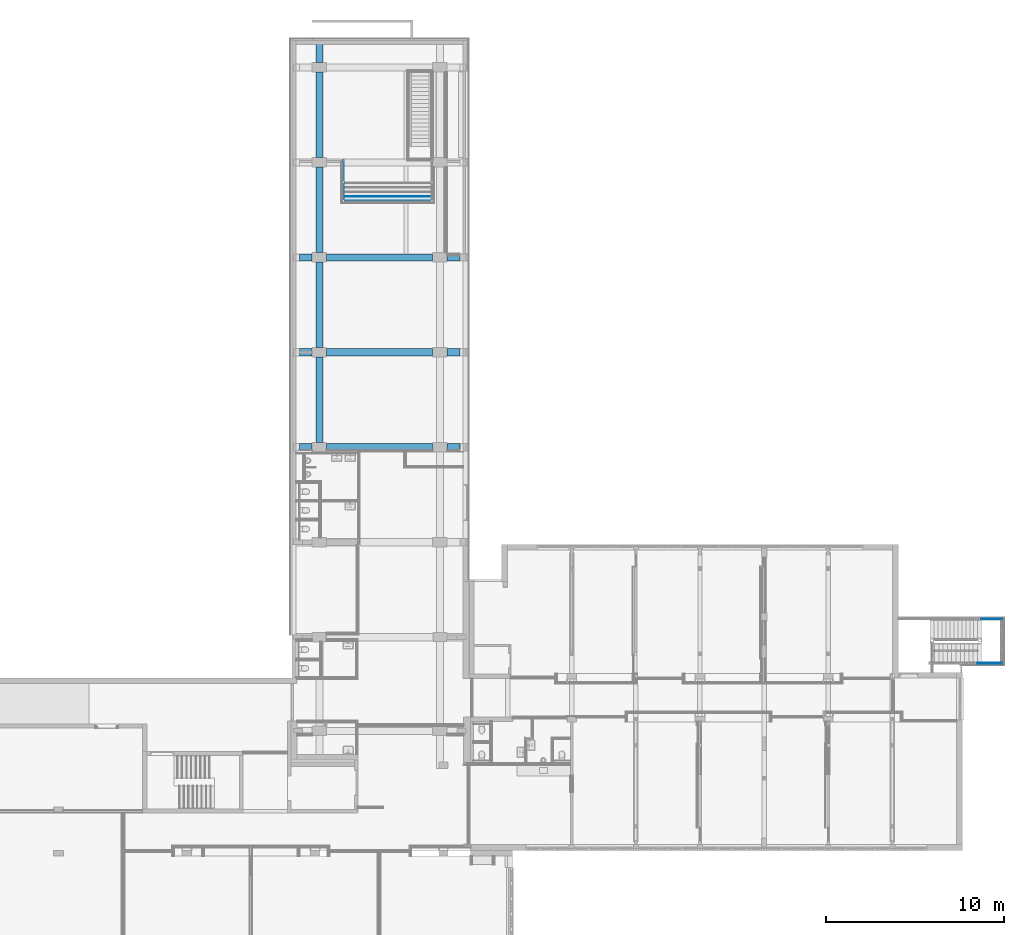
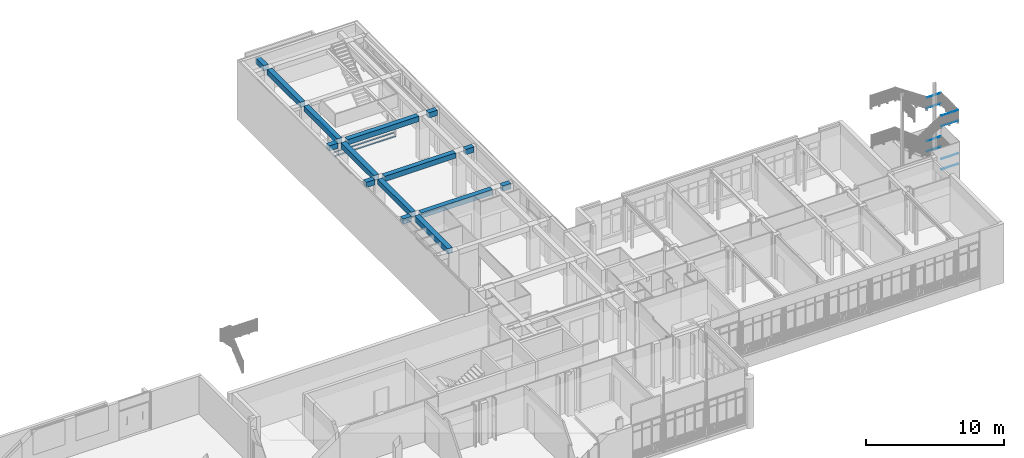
# One storey, part 63 of 135: 12 members, 4 beams, 4 elements without a shape of their own.
"""IFC2X3 building model written with IfcOpenShell, lengths in millimetres."""

from ifc_helpers import new_model, entity, si_unit, converted_unit, derived_unit, money_unit, direction, frame, origin_with_axes, place, context, subcontext, project, spatial, faceted_brep, material, type_object, element, aggregate, save


model = new_model("IFC2X3")

# Units and contexts
model_context = context("Model", 3, precision=0.01, world=origin_with_axes(), true_north=direction((0.0, 1.0)))
body_context = subcontext(model_context, "Body", "Model", "MODEL_VIEW")
ifc_project = project(units=[si_unit("LENGTHUNIT", "METRE", prefix="MILLI"), si_unit("AREAUNIT", "SQUARE_METRE"), si_unit("VOLUMEUNIT", "CUBIC_METRE"), converted_unit("PLANEANGLEUNIT", "DEGREE", entity("IfcPlaneAngleMeasure", 0.0174532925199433), si_unit("PLANEANGLEUNIT", "RADIAN"), dimensions=[0, 0, 0, 0, 0, 0, 0]), money_unit("EUR"), converted_unit("TIMEUNIT", "Year", entity("IfcTimeMeasure", 31557600.0), si_unit("TIMEUNIT", "SECOND"), dimensions=[0, 0, 1, 0, 0, 0, 0]), si_unit("MASSUNIT", "GRAM", prefix="KILO"), si_unit("THERMODYNAMICTEMPERATUREUNIT", "DEGREE_CELSIUS"), si_unit("LUMINOUSINTENSITYUNIT", "LUMEN"), si_unit("ENERGYUNIT", "JOULE", prefix="MEGA"), derived_unit("THERMALCONDUCTANCEUNIT", [(si_unit("POWERUNIT", "WATT"), 1), (si_unit("LENGTHUNIT", "METRE"), -1), (si_unit("THERMODYNAMICTEMPERATUREUNIT", "KELVIN"), -1)]), derived_unit("SPECIFICHEATCAPACITYUNIT", [(si_unit("ENERGYUNIT", "JOULE"), 1), (si_unit("MASSUNIT", "GRAM", prefix="KILO"), -1), (si_unit("THERMODYNAMICTEMPERATUREUNIT", "KELVIN"), -1)]), derived_unit("MASSDENSITYUNIT", [(si_unit("MASSUNIT", "GRAM", prefix="KILO"), 1), (si_unit("VOLUMEUNIT", "CUBIC_METRE"), -1)])], contexts=[model_context])

# Site, building, storey
site_placement = place(None, origin_with_axes())
site = spatial("IfcSite", under=ifc_project, at=site_placement, Name="Site", CompositionType="ELEMENT")
building_placement = place(site_placement, origin_with_axes())
building = spatial("IfcBuilding", under=site, at=building_placement, Name="Naam gebouw", CompositionType="ELEMENT")
storey_placement = place(building_placement, origin_with_axes())
storey = spatial("IfcBuildingStorey", under=building, at=storey_placement, Name="Begane grond N", CompositionType="ELEMENT", Elevation=0.0)

# Railing, members
railing_type = type_object("IfcRailingType", Name="Railing Type", PredefinedType="NOTDEFINED")
railing_1_placement = place(storey_placement, frame((56236.62159597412, 21185.9124251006, 157.4646725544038), z_axis=(0.0, 0.0, 1.0), x_axis=(1.0, 0.0, 0.0)))
railing_1 = element("IfcRailing", 1, at=railing_1_placement, inside=storey, type_object=railing_type, Name="_Reling-x", PredefinedType="NOTDEFINED")
ifc_material_1 = material(Name="Metaal - Staal C")
member_type_1 = type_object("IfcMemberType", Name="IfcMember", PredefinedType="USERDEFINED")
member_1_placement = place(railing_1_placement, frame((3225.226525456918, -24.99999999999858, 2901.924667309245), z_axis=(0.0, 0.0, 1.0), x_axis=(1.0, 0.0, 0.0)))
member_1 = element("IfcMember", 2, at=member_1_placement, type_object=member_type_1, material=ifc_material_1, Name="_Bovenregel-x", context=body_context, shape_type="Brep", body=[
    faceted_brep([(-682.8111368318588, -19.99999999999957, 28.28427124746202), (-676.3566655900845, -19.99999999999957, 8.284271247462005), (702.8111368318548, -19.99999999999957, 8.284271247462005), (702.8111368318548, -19.99999999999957, 28.28427124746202), (-682.8111368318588, 19.99999999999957, 28.28427124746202), (-676.3566655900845, 19.99999999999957, 8.284271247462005), (662.8111368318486, 19.99999999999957, 8.284271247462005), (662.8111368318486, 19.99999999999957, 28.28427124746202)], [[[0, 1, 2, 3]], [[0, 4, 5, 1]], [[1, 5, 6, 2]], [[3, 2, 6, 7]], [[4, 0, 3, 7]], [[5, 4, 7, 6]]]),
])
member_2_placement = place(railing_1_placement, frame((3225.226525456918, -24.99999999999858, 1977.848258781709), z_axis=(0.0, 0.0, 1.0), x_axis=(1.0, 0.0, 0.0)))
member_2 = element("IfcMember", 3, at=member_2_placement, type_object=member_type_1, material=ifc_material_1, Name="_Regel-x", context=body_context, shape_type="Brep", body=[
    faceted_brep([(-686.0383724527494, -19.99999999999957, 32.36067977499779), (-679.5839012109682, -19.99999999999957, 12.36067977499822), (702.8111368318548, -19.99999999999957, 12.36067977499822), (702.8111368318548, -19.99999999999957, 32.36067977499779), (-686.0383724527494, 19.99999999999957, 32.36067977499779), (-679.5839012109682, 19.99999999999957, 12.36067977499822), (662.8111368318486, 19.99999999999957, 12.36067977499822), (662.8111368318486, 19.99999999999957, 32.36067977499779)], [[[0, 1, 2, 3]], [[0, 4, 5, 1]], [[1, 5, 6, 2]], [[3, 2, 6, 7]], [[4, 0, 3, 7]], [[5, 4, 7, 6]]]),
])
member_3_placement = place(railing_1_placement, frame((3328.195691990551, 2465.000000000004, 2901.924667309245), z_axis=(0.0, 0.0, 1.0), x_axis=(1.0, 0.0, 0.0)))
member_3 = element("IfcMember", 4, at=member_3_placement, type_object=member_type_1, material=ifc_material_1, Name="_Bovenregel-x", context=body_context, shape_type="Brep", body=[
    faceted_brep([(599.8419702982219, 19.99999999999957, 28.28427124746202), (599.8419702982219, 19.99999999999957, 8.284271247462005), (-586.7478712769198, 19.99999999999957, 8.284271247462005), (-579.8419702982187, 19.99999999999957, 28.28427124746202), (559.8419702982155, -19.99999999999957, 28.28427124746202), (559.8419702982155, -19.99999999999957, 8.284271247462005), (-586.7478712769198, -19.99999999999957, 8.284271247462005), (-579.8419702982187, -19.99999999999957, 28.28427124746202)], [[[0, 1, 2, 3]], [[0, 4, 5, 1]], [[1, 5, 6, 2]], [[3, 2, 6, 7]], [[4, 0, 3, 7]], [[5, 4, 7, 6]]]),
])
member_4_placement = place(railing_1_placement, frame((3328.195691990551, 2465.000000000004, 1977.848258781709), z_axis=(0.0, 0.0, 1.0), x_axis=(1.0, 0.0, 0.0)))
member_4 = element("IfcMember", 5, at=member_4_placement, type_object=member_type_1, material=ifc_material_1, Name="_Regel-x", context=body_context, shape_type="Brep", body=[
    faceted_brep([(599.8419702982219, 19.99999999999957, 32.36067977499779), (599.8419702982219, 19.99999999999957, 12.36067977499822), (-583.2949207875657, 19.99999999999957, 12.36067977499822), (-576.3890198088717, 19.99999999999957, 32.36067977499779), (559.8419702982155, -19.99999999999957, 32.36067977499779), (559.8419702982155, -19.99999999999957, 12.36067977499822), (-583.2949207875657, -19.99999999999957, 12.36067977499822), (-576.3890198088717, -19.99999999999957, 32.36067977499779)], [[[0, 1, 2, 3]], [[0, 4, 5, 1]], [[1, 5, 6, 2]], [[3, 2, 6, 7]], [[4, 0, 3, 7]], [[5, 4, 7, 6]]]),
])
aggregate(railing_1, [member_1, member_2, member_3, member_4])

railing_2_placement = place(storey_placement, frame((56236.62159597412, 21185.9124251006, 4176.0), z_axis=(0.0, 0.0, 1.0), x_axis=(1.0, 0.0, 0.0)))
railing_2 = element("IfcRailing", 6, at=railing_2_placement, inside=storey, type_object=railing_type, Name="_Reling-x", PredefinedType="NOTDEFINED")
member_5_placement = place(railing_2_placement, frame((3214.935431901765, -24.99999999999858, 2708.38933986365), z_axis=(0.0, 0.0, 1.0), x_axis=(1.0, 0.0, 0.0)))
member_5 = element("IfcMember", 7, at=member_5_placement, type_object=member_type_1, material=ifc_material_1, Name="_Bovenregel-x", context=body_context, shape_type="Brep", body=[
    faceted_brep([(-693.4429721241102, -19.99999999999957, 28.28427124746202), (-687.3769018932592, -19.99999999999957, 8.28427124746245), (713.4429721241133, -19.99999999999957, 8.28427124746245), (713.4429721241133, -19.99999999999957, 28.28427124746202), (-693.4429721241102, 19.99999999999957, 28.28427124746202), (-687.3769018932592, 19.99999999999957, 8.28427124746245), (673.4429721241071, 19.99999999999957, 8.28427124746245), (673.4429721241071, 19.99999999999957, 28.28427124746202)], [[[0, 1, 2, 3]], [[0, 4, 5, 1]], [[1, 5, 6, 2]], [[3, 2, 6, 7]], [[4, 0, 3, 7]], [[5, 4, 7, 6]]]),
])
member_6_placement = place(railing_2_placement, frame((3214.935431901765, -24.99999999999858, 1784.312931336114), z_axis=(0.0, 0.0, 1.0), x_axis=(1.0, 0.0, 0.0)))
member_6 = element("IfcMember", 8, at=member_6_placement, type_object=member_type_1, material=ifc_material_1, Name="_Regel-x", context=body_context, shape_type="Brep", body=[
    faceted_brep([(-696.4760072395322, -19.99999999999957, 32.36067977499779), (-690.4099370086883, -19.99999999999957, 12.36067977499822), (713.4429721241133, -19.99999999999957, 12.36067977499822), (713.4429721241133, -19.99999999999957, 32.36067977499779), (-696.4760072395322, 19.99999999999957, 32.36067977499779), (-690.4099370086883, 19.99999999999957, 12.36067977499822), (673.4429721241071, 19.99999999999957, 12.36067977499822), (673.4429721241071, 19.99999999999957, 32.36067977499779)], [[[0, 1, 2, 3]], [[0, 4, 5, 1]], [[1, 5, 6, 2]], [[3, 2, 6, 7]], [[4, 0, 3, 7]], [[5, 4, 7, 6]]]),
])
member_7_placement = place(railing_2_placement, frame((3327.60050876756, 2465.000000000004, 2708.38933986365), z_axis=(0.0, 0.0, 1.0), x_axis=(1.0, 0.0, 0.0)))
member_7 = element("IfcMember", 9, at=member_7_placement, type_object=member_type_1, material=ifc_material_1, Name="_Bovenregel-x", context=body_context, shape_type="Brep", body=[
    faceted_brep([(600.777895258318, 19.99999999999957, 28.28427124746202), (600.777895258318, 19.99999999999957, 8.28427124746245), (-586.8693930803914, 19.99999999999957, 8.28427124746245), (-580.7778952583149, 19.99999999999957, 28.28427124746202), (560.7778952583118, -19.99999999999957, 28.28427124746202), (560.7778952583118, -19.99999999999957, 8.28427124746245), (-586.8693930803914, -19.99999999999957, 8.28427124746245), (-580.7778952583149, -19.99999999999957, 28.28427124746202)], [[[0, 1, 2, 3]], [[0, 4, 5, 1]], [[1, 5, 6, 2]], [[3, 2, 6, 7]], [[4, 0, 3, 7]], [[5, 4, 7, 6]]]),
])
member_8_placement = place(railing_2_placement, frame((3327.60050876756, 2465.000000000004, 1784.312931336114), z_axis=(0.0, 0.0, 1.0), x_axis=(1.0, 0.0, 0.0)))
member_8 = element("IfcMember", 10, at=member_8_placement, type_object=member_type_1, material=ifc_material_1, Name="_Regel-x", context=body_context, shape_type="Brep", body=[
    faceted_brep([(600.777895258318, 19.99999999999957, 32.36067977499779), (600.777895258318, 19.99999999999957, 12.36067977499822), (-583.8236441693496, 19.99999999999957, 12.36067977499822), (-577.7321463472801, 19.99999999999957, 32.36067977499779), (560.7778952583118, -19.99999999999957, 32.36067977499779), (560.7778952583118, -19.99999999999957, 12.36067977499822), (-583.8236441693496, -19.99999999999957, 12.36067977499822), (-577.7321463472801, -19.99999999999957, 32.36067977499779)], [[[0, 1, 2, 3]], [[0, 4, 5, 1]], [[1, 5, 6, 2]], [[3, 2, 6, 7]], [[4, 0, 3, 7]], [[5, 4, 7, 6]]]),
])
aggregate(railing_2, [member_5, member_6, member_7, member_8])

railing_3_placement = place(storey_placement, frame((23160.00002619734, 47067.9124162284, 160.0), z_axis=(0.0, 0.0, 1.0), x_axis=(1.0, 0.0, 0.0)))
railing_3 = element("IfcRailing", 11, at=railing_3_placement, inside=storey, type_object=railing_type, Name="_Reling-x", PredefinedType="NOTDEFINED")
ifc_material_2 = material(Name="Metaal - RVS")
member_9_placement = place(railing_3_placement, frame((30.00000000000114, 1699.000002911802, 1595.278640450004), z_axis=(0.0, 0.0, 1.0), x_axis=(1.0, 0.0, 0.0)))
member_9 = element("IfcMember", 12, at=member_9_placement, type_object=member_type_1, material=ifc_material_2, Name="_Bovenregel-x", context=body_context, shape_type="Brep", body=[
    faceted_brep([(-19.99999999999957, -603.3391591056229, 24.72135954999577), (-19.69615506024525, -604.3221543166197, 28.19432310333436), (-19.69615506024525, 609.0000029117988, 28.19432310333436), (-19.99999999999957, 609.0000029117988, 24.72135954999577), (-19.69615506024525, -602.3561638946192, 21.24839599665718), (-18.79385241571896, -601.4030364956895, 17.88095668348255), (-17.32050807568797, -600.5087372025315, 14.72135954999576), (-15.32088886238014, -599.7004388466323, 11.86560735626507), (-12.85575219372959, -599.0027011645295, 9.400470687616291), (-10.00000000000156, -598.4367245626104, 7.400851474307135), (-6.840402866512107, -598.0197059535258, 5.927507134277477), (-3.472963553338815, -597.7643162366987, 5.025204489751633), (0.0, -597.6783152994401, 4.721359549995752), (3.472963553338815, -597.7643162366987, 5.025204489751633), (6.840402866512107, -598.0197059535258, 5.927507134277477), (10.00000000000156, -598.4367245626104, 7.400851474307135), (12.85575219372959, -599.0027011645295, 9.400470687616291), (15.32088886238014, -599.7004388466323, 11.86560735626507), (17.32050807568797, -600.5087372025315, 14.72135954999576), (18.79385241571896, -601.4030364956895, 17.88095668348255), (19.69615506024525, -602.3561638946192, 21.24839599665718), (19.99999999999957, -603.3391591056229, 24.72135954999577), (19.69615506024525, -604.3221543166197, 28.19432310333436), (18.79385241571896, -605.2752817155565, 31.56176241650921), (17.32050807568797, -606.1695810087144, 34.72135954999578), (15.32088886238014, -606.9778793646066, 37.57711174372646), (12.85575219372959, -607.6756170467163, 40.04224841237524), (10.00000000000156, -608.2415936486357, 42.0418676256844), (6.840402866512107, -608.6586122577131, 43.51521196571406), (3.472963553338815, -608.91400197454, 44.41751461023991), (0.0, -609.000002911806, 44.72135954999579), (-3.472963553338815, -608.91400197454, 44.41751461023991), (-6.840402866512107, -608.6586122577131, 43.51521196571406), (-10.00000000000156, -608.2415936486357, 42.0418676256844), (-12.85575219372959, -607.6756170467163, 40.04224841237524), (-15.32088886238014, -606.9778793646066, 37.57711174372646), (-17.32050807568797, -606.1695810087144, 34.72135954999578), (-18.79385241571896, -605.2752817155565, 31.56176241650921), (-18.79385241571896, 609.0000029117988, 31.56176241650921), (-17.32050807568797, 609.0000029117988, 34.72135954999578), (-15.32088886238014, 609.0000029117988, 37.57711174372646), (-12.85575219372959, 609.0000029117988, 40.04224841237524), (-10.00000000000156, 609.0000029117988, 42.0418676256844), (-6.840402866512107, 609.0000029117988, 43.51521196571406), (-3.472963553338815, 609.0000029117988, 44.41751461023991), (0.0, 609.0000029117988, 44.72135954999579), (3.472963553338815, 609.0000029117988, 44.41751461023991), (6.840402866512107, 609.0000029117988, 43.51521196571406), (10.00000000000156, 609.0000029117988, 42.0418676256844), (12.85575219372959, 609.0000029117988, 40.04224841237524), (15.32088886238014, 609.0000029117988, 37.57711174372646), (17.32050807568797, 609.0000029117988, 34.72135954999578), (18.79385241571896, 609.0000029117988, 31.56176241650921), (19.69615506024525, 609.0000029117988, 28.19432310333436), (19.99999999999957, 609.0000029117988, 24.72135954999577), (19.69615506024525, 609.0000029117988, 21.24839599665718), (18.79385241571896, 609.0000029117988, 17.88095668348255), (17.32050807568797, 609.0000029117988, 14.72135954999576), (15.32088886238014, 609.0000029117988, 11.86560735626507), (12.85575219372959, 609.0000029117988, 9.400470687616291), (10.00000000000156, 609.0000029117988, 7.400851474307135), (6.840402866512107, 609.0000029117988, 5.927507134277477), (3.472963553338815, 609.0000029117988, 5.025204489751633), (0.0, 609.0000029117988, 4.721359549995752), (-3.472963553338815, 609.0000029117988, 5.025204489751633), (-6.840402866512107, 609.0000029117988, 5.927507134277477), (-10.00000000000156, 609.0000029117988, 7.400851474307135), (-12.85575219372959, 609.0000029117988, 9.400470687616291), (-15.32088886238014, 609.0000029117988, 11.86560735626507), (-17.32050807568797, 609.0000029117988, 14.72135954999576), (-18.79385241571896, 609.0000029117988, 17.88095668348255), (-19.69615506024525, 609.0000029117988, 21.24839599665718)], [[[0, 1, 2, 3]], [[0, 4, 5, 6, 7, 8, 9, 10, 11, 12, 13, 14, 15, 16, 17, 18, 19, 20, 21, 22, 23, 24, 25, 26, 27, 28, 29, 30, 31, 32, 33, 34, 35, 36, 37, 1]], [[1, 37, 38, 2]], [[3, 2, 38, 39, 40, 41, 42, 43, 44, 45, 46, 47, 48, 49, 50, 51, 52, 53, 54, 55, 56, 57, 58, 59, 60, 61, 62, 63, 64, 65, 66, 67, 68, 69, 70, 71]], [[4, 0, 3, 71]], [[5, 4, 71, 70]], [[6, 5, 70, 69]], [[7, 6, 69, 68]], [[8, 7, 68, 67]], [[9, 8, 67, 66]], [[10, 9, 66, 65]], [[11, 10, 65, 64]], [[12, 11, 64, 63]], [[13, 12, 63, 62]], [[14, 13, 62, 61]], [[15, 14, 61, 60]], [[16, 15, 60, 59]], [[17, 16, 59, 58]], [[18, 17, 58, 57]], [[19, 18, 57, 56]], [[20, 19, 56, 55]], [[21, 20, 55, 54]], [[22, 21, 54, 53]], [[23, 22, 53, 52]], [[24, 23, 52, 51]], [[25, 24, 51, 50]], [[26, 25, 50, 49]], [[27, 26, 49, 48]], [[28, 27, 48, 47]], [[29, 28, 47, 46]], [[30, 29, 46, 45]], [[31, 30, 45, 44]], [[32, 31, 44, 43]], [[33, 32, 43, 42]], [[34, 33, 42, 41]], [[35, 34, 41, 40]], [[36, 35, 40, 39]], [[37, 36, 39, 38]]]),
])
member_10_placement = place(railing_3_placement, frame((30.00000000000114, 569.9999999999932, 955.2786404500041), z_axis=(0.0, 0.0, 1.0), x_axis=(1.0, 0.0, 0.0)))
member_10 = element("IfcMember", 13, at=member_10_placement, type_object=member_type_1, material=ifc_material_2, Name="_Bovenregel-x", context=body_context, shape_type="Brep", body=[
    faceted_brep([(-19.99999999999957, -509.5180514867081, 27.68819321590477), (-19.69615506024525, -511.3382227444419, 30.64597150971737), (-19.69615506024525, 524.6778485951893, 668.1943231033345), (-19.99999999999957, 525.660843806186, 664.7213595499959), (-19.69615506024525, -507.6978802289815, 24.73041492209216), (-18.79385241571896, -505.9330139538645, 21.86250722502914), (-17.32050807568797, -504.2770772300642, 19.17161004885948), (-15.32088886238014, -502.7803848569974, 16.73948494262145), (-12.85575219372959, -501.4884130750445, 14.6400307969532), (-10.00000000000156, -500.4404177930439, 12.9370384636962), (-6.840402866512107, -499.6682418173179, 11.68225250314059), (-3.472963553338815, -499.1953473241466, 10.9137989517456), (0.0, -499.0361029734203, 10.65502688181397), (3.472963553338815, -499.1953473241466, 10.9137989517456), (6.840402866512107, -499.6682418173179, 11.68225250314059), (10.00000000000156, -500.4404177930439, 12.9370384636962), (12.85575219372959, -501.4884130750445, 14.6400307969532), (15.32088886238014, -502.7803848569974, 16.73948494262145), (17.32050807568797, -504.2770772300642, 19.17161004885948), (18.79385241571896, -505.9330139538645, 21.86250722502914), (19.69615506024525, -507.6978802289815, 24.73041492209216), (19.99999999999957, -509.5180514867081, 27.68819321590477), (19.69615506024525, -511.3382227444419, 30.64597150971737), (18.79385241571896, -513.1030890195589, 33.51387920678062), (17.32050807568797, -514.7590257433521, 36.20477638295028), (15.32088886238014, -516.2557181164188, 38.6369014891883), (12.85575219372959, -517.5476898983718, 40.73635563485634), (10.00000000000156, -518.5956851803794, 42.43934796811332), (6.840402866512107, -519.3678611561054, 43.69413392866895), (3.472963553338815, -519.8407556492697, 44.46258748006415), (0.0, -519.999999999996, 44.72135954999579), (-3.472963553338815, -519.8407556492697, 44.46258748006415), (-6.840402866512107, -519.3678611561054, 43.69413392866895), (-10.00000000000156, -518.5956851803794, 42.43934796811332), (-12.85575219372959, -517.5476898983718, 40.73635563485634), (-15.32088886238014, -516.2557181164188, 38.6369014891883), (-17.32050807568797, -514.7590257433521, 36.20477638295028), (-18.79385241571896, -513.1030890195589, 33.51387920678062), (-18.79385241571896, 523.7247211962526, 671.5617624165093), (-17.32050807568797, 522.8304219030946, 674.7213595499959), (-15.32088886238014, 522.0221235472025, 677.5771117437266), (-12.85575219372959, 521.3243858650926, 680.0422484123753), (-10.00000000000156, 520.7584092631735, 682.0418676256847), (-6.840402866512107, 520.3413906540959, 683.5152119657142), (-3.472963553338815, 520.086000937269, 684.41751461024), (0.0, 520.0000000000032, 684.7213595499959), (3.472963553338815, 520.086000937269, 684.41751461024), (6.840402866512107, 520.3413906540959, 683.5152119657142), (10.00000000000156, 520.7584092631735, 682.0418676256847), (12.85575219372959, 521.3243858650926, 680.0422484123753), (15.32088886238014, 522.0221235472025, 677.5771117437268), (17.32050807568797, 522.8304219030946, 674.7213595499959), (18.79385241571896, 523.7247211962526, 671.5617624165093), (19.69615506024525, 524.6778485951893, 668.1943231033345), (19.99999999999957, 525.660843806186, 664.7213595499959), (19.69615506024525, 526.64383901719, 661.2483959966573), (18.79385241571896, 527.5969664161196, 657.8809566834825), (17.32050807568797, 528.4912657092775, 654.7213595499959), (15.32088886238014, 529.2995640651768, 651.8656073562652), (12.85575219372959, 529.9973017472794, 649.4004706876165), (10.00000000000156, 530.5632783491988, 647.400851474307), (6.840402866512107, 530.9802969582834, 645.9275071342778), (3.472963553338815, 531.2356866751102, 645.0252044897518), (0.0, 531.321687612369, 644.7213595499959), (-3.472963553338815, 531.2356866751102, 645.0252044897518), (-6.840402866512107, 530.9802969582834, 645.9275071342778), (-10.00000000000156, 530.5632783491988, 647.400851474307), (-12.85575219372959, 529.9973017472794, 649.4004706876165), (-15.32088886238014, 529.2995640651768, 651.8656073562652), (-17.32050807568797, 528.4912657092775, 654.7213595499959), (-18.79385241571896, 527.5969664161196, 657.8809566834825), (-19.69615506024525, 526.64383901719, 661.2483959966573)], [[[0, 1, 2, 3]], [[0, 4, 5, 6, 7, 8, 9, 10, 11, 12, 13, 14, 15, 16, 17, 18, 19, 20, 21, 22, 23, 24, 25, 26, 27, 28, 29, 30, 31, 32, 33, 34, 35, 36, 37, 1]], [[1, 37, 38, 2]], [[3, 2, 38, 39, 40, 41, 42, 43, 44, 45, 46, 47, 48, 49, 50, 51, 52, 53, 54, 55, 56, 57, 58, 59, 60, 61, 62, 63, 64, 65, 66, 67, 68, 69, 70, 71]], [[4, 0, 3, 71]], [[5, 4, 71, 70]], [[6, 5, 70, 69]], [[7, 6, 69, 68]], [[8, 7, 68, 67]], [[9, 8, 67, 66]], [[10, 9, 66, 65]], [[11, 10, 65, 64]], [[12, 11, 64, 63]], [[13, 12, 63, 62]], [[14, 13, 62, 61]], [[15, 14, 61, 60]], [[16, 15, 60, 59]], [[17, 16, 59, 58]], [[18, 17, 58, 57]], [[19, 18, 57, 56]], [[20, 19, 56, 55]], [[21, 20, 55, 54]], [[22, 21, 54, 53]], [[23, 22, 53, 52]], [[24, 23, 52, 51]], [[25, 24, 51, 50]], [[26, 25, 50, 49]], [[27, 26, 49, 48]], [[28, 27, 48, 47]], [[29, 28, 47, 46]], [[30, 29, 46, 45]], [[31, 30, 45, 44]], [[32, 31, 44, 43]], [[33, 32, 43, 42]], [[34, 33, 42, 41]], [[35, 34, 41, 40]], [[36, 35, 40, 39]], [[37, 36, 39, 38]]]),
])
aggregate(railing_3, [member_9, member_10])

# Beams
ifc_material_3 = material(Name="ALG - CONSTRUCTIEF KOLOM")
beam_type = type_object("IfcBeamType", Name="ALG - CONSTRUCTIEF KOLOM 400 x 470", PredefinedType="BEAM")
beam_1_placement = place(storey_placement, frame((20386.0, 38615.91242510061, 3850.0), z_axis=(0.0, 0.0, 1.0), x_axis=(0.0, -1.0, 0.0)))
element("IfcBeam", 14, at=beam_1_placement, inside=storey, type_object=beam_type, material=ifc_material_3, Name="_Balk-x", ObjectType="BEAM", context=body_context, shape_type="Brep", body=[
    faceted_brep([(200.0000000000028, 329.9999999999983, 0.0), (200.0000000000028, 1040.000000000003, 0.0), (-200.0000000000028, 1040.000000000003, 0.0), (-200.0000000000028, 329.9999999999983, 0.0), (200.0000000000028, 329.9999999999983, -470.0006772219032), (200.0000000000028, 1040.000000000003, -470.0006772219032), (-200.0000000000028, 1040.000000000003, -470.0006772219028), (-200.0000000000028, 329.9999999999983, -470.0006772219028)], [[[0, 1, 2, 3]], [[4, 5, 1, 0]], [[5, 6, 2, 1]], [[3, 2, 6, 7]], [[4, 0, 3, 7]], [[7, 6, 5, 4]]]),
    faceted_brep([(-200.0000000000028, 9339.999999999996, -470.0006772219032), (-200.0000000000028, 8629.999999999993, -470.0006772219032), (-200.0000000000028, 8629.999999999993, 0.0), (-200.0000000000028, 9339.999999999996, 0.0), (200.0000000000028, 9339.999999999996, -470.0006772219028), (200.0000000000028, 8629.999999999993, -470.0006772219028), (200.0000000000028, 8629.999999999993, 0.0), (200.0000000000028, 9339.999999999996, 0.0)], [[[0, 1, 2, 3]], [[4, 5, 1, 0]], [[5, 6, 2, 1]], [[3, 2, 6, 7]], [[4, 0, 3, 7]], [[7, 6, 5, 4]]]),
    faceted_brep([(-200.0000000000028, 7809.999999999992, -470.0006772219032), (-200.0000000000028, 1860.000000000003, -470.0006772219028), (-200.0000000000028, 1860.000000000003, 0.0), (-200.0000000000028, 7809.999999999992, 0.0), (200.0000000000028, 7809.999999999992, -470.0006772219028), (200.0000000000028, 1860.000000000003, -470.0006772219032), (200.0000000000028, 1860.000000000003, 0.0), (200.0000000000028, 7809.999999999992, 0.0)], [[[0, 1, 2, 3]], [[4, 5, 1, 0]], [[5, 6, 2, 1]], [[3, 2, 6, 7]], [[4, 0, 3, 7]], [[7, 6, 5, 4]]]),
])
beam_2_placement = place(storey_placement, frame((21836.00000000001, 56035.91242510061, 3850.0), z_axis=(0.0, 0.0, 1.0), x_axis=(-1.0, 0.0, 0.0)))
element("IfcBeam", 15, at=beam_2_placement, inside=storey, type_object=beam_type, material=ifc_material_3, Name="_Balk-x", ObjectType="BEAM", context=body_context, shape_type="Brep", body=[
    faceted_brep([(199.9999999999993, 7022.500000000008, 0.0), (199.9999999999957, 11827.5, 0.0), (-200.0000000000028, 11827.5, 0.0), (-199.9999999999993, 7022.500000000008, 0.0), (199.9999999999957, 7022.500000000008, -470.0016757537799), (199.9999999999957, 11827.5, -470.0013585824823), (-200.0000000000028, 11827.5, -470.0013585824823), (-200.0000000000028, 7022.500000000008, -470.0016757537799)], [[[0, 1, 2, 3]], [[4, 5, 1, 0]], [[5, 6, 2, 1]], [[3, 2, 6, 7]], [[4, 0, 3, 7]], [[7, 6, 5, 4]]]),
    faceted_brep([(199.9999999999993, 0.0, 0.0), (199.9999999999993, 1167.500000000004, 0.0), (-199.9999999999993, 1167.500000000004, 0.0), (-199.9999999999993, 0.0, 0.0), (199.9999999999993, 0.0, -470.001354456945), (199.9999999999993, 1167.500000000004, -470.0019972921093), (-199.9999999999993, 1167.500000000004, -470.0019972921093), (-199.9999999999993, 0.0, -470.001354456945)], [[[0, 1, 2, 3]], [[4, 5, 1, 0]], [[5, 6, 2, 1]], [[3, 2, 6, 7]], [[0, 3, 7, 4]], [[7, 6, 5, 4]]]),
    faceted_brep([(199.9999999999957, 12352.50000000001, 0.0), (199.9999999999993, 17157.5, 0.0), (-199.9999999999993, 17157.5, 0.0), (-200.0000000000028, 12352.50000000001, 0.0), (199.9999999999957, 12352.50000000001, -470.0013458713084), (199.9999999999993, 17157.5, -470.0006858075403), (-199.9999999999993, 17157.5, -470.0006858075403), (-200.0000000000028, 12352.50000000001, -470.0013458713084)], [[[0, 1, 2, 3]], [[4, 5, 1, 0]], [[5, 6, 2, 1]], [[3, 2, 6, 7]], [[4, 0, 3, 7]], [[7, 6, 5, 4]]]),
    faceted_brep([(-199.9999999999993, 22487.5, -470.0014863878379), (-199.9999999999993, 17682.5, -470.0006876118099), (-199.9999999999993, 17682.5, 0.0), (-199.9999999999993, 22487.5, 0.0), (199.9999999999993, 22487.5, -470.0014863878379), (199.9999999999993, 17682.5, -470.0006876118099), (199.9999999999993, 17682.5, 0.0), (199.9999999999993, 22487.5, 0.0)], [[[0, 1, 2, 3]], [[4, 5, 1, 0]], [[5, 6, 2, 1]], [[3, 2, 6, 7]], [[4, 0, 3, 7]], [[7, 6, 5, 4]]]),
    faceted_brep([(199.9999999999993, 23012.5, 0.0), (199.9999999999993, 27817.5, 0.0), (-199.9999999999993, 27817.5, 0.0), (-199.9999999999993, 23012.5, 0.0), (199.9999999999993, 23012.5, -470.0015020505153), (199.9999999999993, 27817.5, -470.001907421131), (-199.9999999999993, 27817.5, -470.001907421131), (-199.9999999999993, 23012.5, -470.0015020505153)], [[[0, 1, 2, 3]], [[4, 5, 1, 0]], [[5, 6, 2, 1]], [[3, 2, 6, 7]], [[4, 0, 3, 7]], [[7, 6, 5, 4]]]),
    faceted_brep([(199.9999999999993, 1692.50000000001, 0.0), (199.9999999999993, 6497.500000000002, 0.0), (-199.9999999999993, 6497.500000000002, 0.0), (-199.9999999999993, 1692.50000000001, 0.0), (199.9999999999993, 1692.50000000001, -470.0020275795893), (199.9999999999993, 6497.500000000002, -470.0017104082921), (-199.9999999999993, 6497.500000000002, -470.0017104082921), (-199.9999999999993, 1692.50000000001, -470.0020275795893)], [[[0, 1, 2, 3]], [[4, 5, 1, 0]], [[5, 6, 2, 1]], [[3, 2, 6, 7]], [[4, 0, 3, 7]], [[7, 6, 5, 4]]]),
])
beam_3_placement = place(storey_placement, frame((20386.0, 43945.9124251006, 3850.0), z_axis=(0.0, 0.0, 1.0), x_axis=(0.0, -1.0, 0.0)))
element("IfcBeam", 16, at=beam_3_placement, inside=storey, type_object=beam_type, material=ifc_material_3, Name="_Balk-x", ObjectType="BEAM", context=body_context, shape_type="Brep", body=[
    faceted_brep([(200.0000000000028, 329.9999999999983, 0.0), (200.0000000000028, 1039.999999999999, 0.0), (-200.0000000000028, 1039.999999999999, 0.0), (-200.0000000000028, 329.9999999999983, 0.0), (200.0000000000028, 329.9999999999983, -470.001354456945), (200.0000000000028, 1039.999999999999, -470.001354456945), (-200.0000000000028, 1039.999999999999, -470.001354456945), (-200.0000000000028, 329.9999999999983, -470.001354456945)], [[[0, 1, 2, 3]], [[4, 5, 1, 0]], [[5, 6, 2, 1]], [[3, 2, 6, 7]], [[4, 0, 3, 7]], [[7, 6, 5, 4]]]),
    faceted_brep([(-200.0000000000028, 9339.999999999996, -470.001354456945), (-200.0000000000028, 8629.999999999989, -470.001354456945), (-200.0000000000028, 8629.999999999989, 0.0), (-200.0000000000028, 9339.999999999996, 0.0), (200.0000000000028, 9339.999999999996, -470.001354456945), (200.0000000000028, 8629.999999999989, -470.001354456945), (200.0000000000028, 8629.999999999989, 0.0), (200.0000000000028, 9339.999999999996, 0.0)], [[[0, 1, 2, 3]], [[4, 5, 1, 0]], [[5, 6, 2, 1]], [[3, 2, 6, 7]], [[4, 0, 3, 7]], [[7, 6, 5, 4]]]),
    faceted_brep([(-200.0000000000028, 7809.999999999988, -470.001354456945), (-200.0000000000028, 1860.0, -470.001354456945), (-200.0000000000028, 1860.0, 0.0), (-200.0000000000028, 7809.999999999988, 0.0), (200.0000000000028, 7809.999999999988, -470.001354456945), (200.0000000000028, 1860.0, -470.001354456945), (200.0000000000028, 1860.0, 0.0), (200.0000000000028, 7809.999999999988, 0.0)], [[[0, 1, 2, 3]], [[4, 5, 1, 0]], [[5, 6, 2, 1]], [[3, 2, 6, 7]], [[4, 0, 3, 7]], [[7, 6, 5, 4]]]),
])
beam_4_placement = place(storey_placement, frame((20386.0, 33285.91242510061, 3850.0), z_axis=(0.0, 0.0, 1.0), x_axis=(0.0, -1.0, 0.0)))
element("IfcBeam", 17, at=beam_4_placement, inside=storey, type_object=beam_type, material=ifc_material_3, Name="_Balk-x", ObjectType="BEAM", context=body_context, shape_type="Brep", body=[
    faceted_brep([(200.0000000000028, 329.9999999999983, 0.0), (200.0000000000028, 1040.000000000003, 0.0), (-200.0000000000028, 1040.000000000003, 0.0), (-200.0000000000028, 329.9999999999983, 0.0), (200.0000000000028, 329.9999999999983, -470.0014967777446), (200.0000000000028, 1040.000000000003, -470.0014967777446), (-200.0000000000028, 1040.000000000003, -470.0014967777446), (-200.0000000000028, 329.9999999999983, -470.0014967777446)], [[[0, 1, 2, 3]], [[4, 5, 1, 0]], [[5, 6, 2, 1]], [[3, 2, 6, 7]], [[4, 0, 3, 7]], [[7, 6, 5, 4]]]),
    faceted_brep([(200.0000000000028, 1860.000000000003, 0.0), (200.0000000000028, 7809.999999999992, 0.0), (-200.0000000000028, 7809.999999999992, 0.0), (-200.0000000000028, 1860.000000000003, 0.0), (200.0000000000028, 1860.000000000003, -470.0014967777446), (200.0000000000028, 7809.999999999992, -470.0014967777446), (-200.0000000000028, 7809.999999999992, -470.0014967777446), (-200.0000000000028, 1860.000000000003, -470.0014967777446)], [[[0, 1, 2, 3]], [[4, 5, 1, 0]], [[5, 6, 2, 1]], [[3, 2, 6, 7]], [[4, 0, 3, 7]], [[7, 6, 5, 4]]]),
    faceted_brep([(-200.0000000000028, 9339.999999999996, -470.0014967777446), (-200.0000000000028, 8629.999999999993, -470.0014967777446), (-200.0000000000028, 8629.999999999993, 0.0), (-200.0000000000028, 9339.999999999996, 0.0), (200.0000000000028, 9339.999999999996, -470.0014967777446), (200.0000000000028, 8629.999999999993, -470.0014967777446), (200.0000000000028, 8629.999999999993, 0.0), (200.0000000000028, 9339.999999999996, 0.0)], [[[0, 1, 2, 3]], [[4, 5, 1, 0]], [[5, 6, 2, 1]], [[3, 2, 6, 7]], [[4, 0, 3, 7]], [[7, 6, 5, 4]]]),
])

# Stair, members
stair_placement = place(storey_placement, frame((23160.00002619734, 46726.46897177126, 0.0), z_axis=(0.0, 0.0, 1.0), x_axis=(0.0, -1.0, 0.0)))
stair = element("IfcStair", 18, at=stair_placement, inside=storey, Name="_Trap-x", ShapeType="NOTDEFINED")
ifc_material_4 = material(Name="Hout - Vloer")
member_type_2 = type_object("IfcMemberType", Name="IfcMember", PredefinedType="USERDEFINED")
member_11_placement = place(stair_placement, frame((-341.4434444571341, 2500.0, 122.0), z_axis=(0.0, 0.0, 1.0), x_axis=(0.0, 1.0, 0.0)))
member_11 = element("IfcMember", 19, at=member_11_placement, type_object=member_type_2, material=ifc_material_4, Name="_Stootbord-x", context=body_context, shape_type="Brep", body=[
    faceted_brep([(2535.999973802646, 39.99999999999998, 0.0), (2535.999973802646, 57.99999999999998, 0.0), (-2500.0, 57.99999999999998, 0.0), (-2500.0, 39.99999999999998, 0.0), (2535.999973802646, 39.99999999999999, -122.0), (2535.999973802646, 57.99999999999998, -122.0), (-2500.0, 57.99999999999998, -122.0), (-2500.0, 39.99999999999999, -122.0)], [[[0, 1, 2, 3]], [[0, 4, 5, 1]], [[1, 5, 6, 2]], [[3, 2, 6, 7]], [[4, 0, 3, 7]], [[5, 4, 7, 6]]]),
])
member_12_placement = place(stair_placement, frame((-591.4434444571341, 2500.0, 282.0), z_axis=(0.0, 0.0, 1.0), x_axis=(0.0, 1.0, 0.0)))
member_12 = element("IfcMember", 20, at=member_12_placement, type_object=member_type_2, material=ifc_material_4, Name="_Stootbord-x", context=body_context, shape_type="Brep", body=[
    faceted_brep([(2535.999973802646, 39.99999999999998, 0.0), (2535.999973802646, 57.99999999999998, 0.0), (-2500.0, 57.99999999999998, 0.0), (-2500.0, 39.99999999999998, 0.0), (2535.999973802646, 39.99999999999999, -122.0), (2535.999973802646, 57.99999999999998, -122.0), (-2500.0, 57.99999999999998, -122.0), (-2500.0, 39.99999999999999, -122.0)], [[[0, 1, 2, 3]], [[0, 4, 5, 1]], [[1, 5, 6, 2]], [[3, 2, 6, 7]], [[4, 0, 3, 7]], [[5, 4, 7, 6]]]),
])
aggregate(stair, [member_11, member_12])

save(model, "model.ifc")
